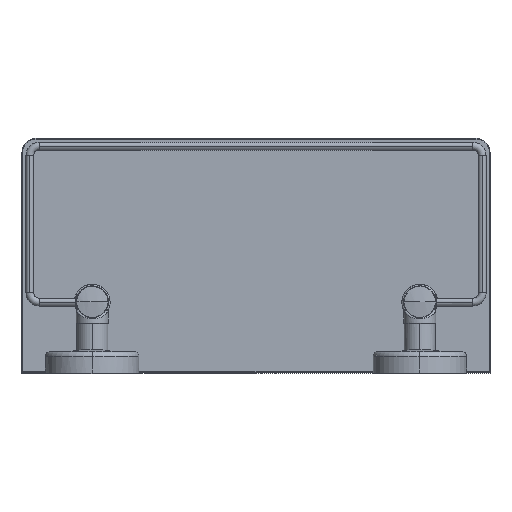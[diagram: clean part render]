
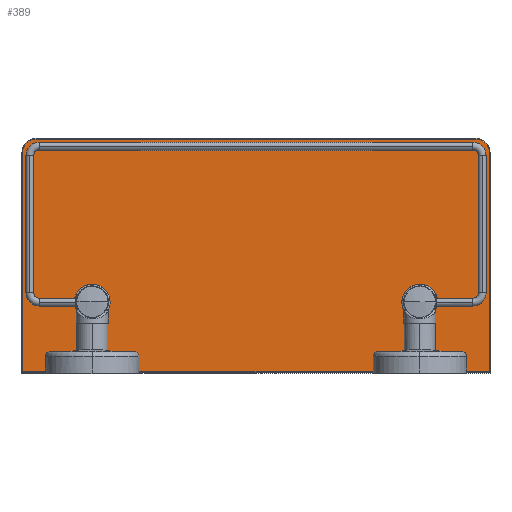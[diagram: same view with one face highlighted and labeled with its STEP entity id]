
A CAD part, top view. The second image highlights one B-rep face of the part: STEP entity #389.
In plain terms, the highlighted planar face has unit normal (0, 0, 1).
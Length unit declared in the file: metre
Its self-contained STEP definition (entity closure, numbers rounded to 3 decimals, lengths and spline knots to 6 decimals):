
#32=VERTEX_POINT('',#33);
#33=CARTESIAN_POINT('',(0.006,0.0329,-0.0631));
#39=EDGE_CURVE('',#40,#32,#42,.T.);
#40=VERTEX_POINT('',#41);
#41=CARTESIAN_POINT('',(-0.006,0.0329,-0.0631));
#42=CIRCLE('',#43,0.006);
#43=AXIS2_PLACEMENT_3D('',#44,#45,#46);
#44=CARTESIAN_POINT('',(-0.0,0.0329,-0.0631));
#45=DIRECTION('',(0.0,0.0,-1.0));
#46=DIRECTION('',(-1.0,0.0,0.0));
#74=VERTEX_POINT('',#75);
#75=CARTESIAN_POINT('',(-0.204,0.0329,-0.0631));
#81=EDGE_CURVE('',#82,#74,#84,.T.);
#82=VERTEX_POINT('',#83);
#83=CARTESIAN_POINT('',(-0.216,0.0329,-0.0631));
#84=CIRCLE('',#85,0.006);
#85=AXIS2_PLACEMENT_3D('',#86,#87,#88);
#86=CARTESIAN_POINT('',(-0.21,0.0329,-0.0631));
#87=DIRECTION('',(0.0,0.0,-1.0));
#88=DIRECTION('',(-1.0,0.0,0.0));
#276=CARTESIAN_POINT('',(-0.204,0.0329,-0.0631));
#277=EDGE_CURVE('',#74,#82,#278,.T.);
#278=(B_SPLINE_CURVE(3,(#276,#279,#280,#281),.UNSPECIFIED.,.F.,.U.)B_SPLINE_CURVE_WITH_KNOTS(
  (4,4),(0.0,1.0),.UNSPECIFIED.)BOUNDED_CURVE()CURVE()GEOMETRIC_REPRESENTATION_ITEM(
  )RATIONAL_B_SPLINE_CURVE((1.0,0.333,0.333,1.0)
  )REPRESENTATION_ITEM(''));
#279=CARTESIAN_POINT('',(-0.204,0.0209,-0.0631));
#280=CARTESIAN_POINT('',(-0.216,0.0209,-0.0631));
#281=CARTESIAN_POINT('',(-0.216,0.0329,-0.0631));
#295=CARTESIAN_POINT('',(0.006,0.0329,-0.0631));
#296=EDGE_CURVE('',#32,#40,#297,.T.);
#297=(B_SPLINE_CURVE(3,(#295,#298,#299,#300),.UNSPECIFIED.,.F.,.U.)B_SPLINE_CURVE_WITH_KNOTS(
  (4,4),(0.0,1.0),.UNSPECIFIED.)BOUNDED_CURVE()CURVE()GEOMETRIC_REPRESENTATION_ITEM(
  )RATIONAL_B_SPLINE_CURVE((1.0,0.333,0.333,1.0)
  )REPRESENTATION_ITEM(''));
#298=CARTESIAN_POINT('',(0.006,0.0209,-0.0631));
#299=CARTESIAN_POINT('',(-0.006,0.0209,-0.0631));
#300=CARTESIAN_POINT('',(-0.006,0.0329,-0.0631));
#389=ADVANCED_FACE('',(#395,#447,#451),#390,.F.);
#390=PLANE('',#391);
#391=AXIS2_PLACEMENT_3D('',#392,#393,#394);
#392=CARTESIAN_POINT('',(-0.105,-0.0121,-0.0631));
#393=DIRECTION('',(0.0,0.0,-1.0));
#394=DIRECTION('',(0.0,-1.0,0.0));
#395=FACE_OUTER_BOUND('',#396,.T.);
#396=EDGE_LOOP('',(#397,#407,#415,#423,#432,#440));
#397=ORIENTED_EDGE('',*,*,#398,.T.);
#398=EDGE_CURVE('',#399,#401,#403,.T.);
#399=VERTEX_POINT('',#400);
#400=CARTESIAN_POINT('',(-0.2545,0.1289,-0.0631));
#401=VERTEX_POINT('',#402);
#402=CARTESIAN_POINT('',(-0.2545,-0.0116,-0.0631));
#403=LINE('',#404,#405);
#404=CARTESIAN_POINT('',(-0.2545,-0.0121,-0.0631));
#405=VECTOR('',#406,1.0);
#406=DIRECTION('',(0.0,-1.0,0.0));
#407=ORIENTED_EDGE('',*,*,#408,.T.);
#408=EDGE_CURVE('',#401,#409,#411,.T.);
#409=VERTEX_POINT('',#410);
#410=CARTESIAN_POINT('',(0.0445,-0.0116,-0.0631));
#411=LINE('',#412,#413);
#412=CARTESIAN_POINT('',(-0.105,-0.0116,-0.0631));
#413=VECTOR('',#414,1.0);
#414=DIRECTION('',(1.0,0.0,0.0));
#415=ORIENTED_EDGE('',*,*,#416,.T.);
#416=EDGE_CURVE('',#409,#417,#419,.T.);
#417=VERTEX_POINT('',#418);
#418=CARTESIAN_POINT('',(0.0445,0.1289,-0.0631));
#419=LINE('',#420,#421);
#420=CARTESIAN_POINT('',(0.0445,-0.0121,-0.0631));
#421=VECTOR('',#422,1.0);
#422=DIRECTION('',(0.0,1.0,0.0));
#423=ORIENTED_EDGE('',*,*,#424,.T.);
#424=EDGE_CURVE('',#417,#425,#427,.F.);
#425=VERTEX_POINT('',#426);
#426=CARTESIAN_POINT('',(0.036,0.1374,-0.0631));
#427=CIRCLE('',#428,0.0085);
#428=AXIS2_PLACEMENT_3D('',#429,#430,#431);
#429=CARTESIAN_POINT('',(0.036,0.1289,-0.0631));
#430=DIRECTION('',(0.0,0.0,-1.0));
#431=DIRECTION('',(-1.0,0.0,0.0));
#432=ORIENTED_EDGE('',*,*,#433,.T.);
#433=EDGE_CURVE('',#425,#434,#436,.T.);
#434=VERTEX_POINT('',#435);
#435=CARTESIAN_POINT('',(-0.246,0.1374,-0.0631));
#436=LINE('',#437,#438);
#437=CARTESIAN_POINT('',(-0.105,0.1374,-0.0631));
#438=VECTOR('',#439,1.0);
#439=DIRECTION('',(-1.0,0.0,0.0));
#440=ORIENTED_EDGE('',*,*,#441,.T.);
#441=EDGE_CURVE('',#434,#399,#442,.F.);
#442=CIRCLE('',#443,0.0085);
#443=AXIS2_PLACEMENT_3D('',#444,#445,#446);
#444=CARTESIAN_POINT('',(-0.246,0.1289,-0.0631));
#445=DIRECTION('',(0.0,0.0,-1.0));
#446=DIRECTION('',(-1.0,0.0,0.0));
#447=FACE_BOUND('',#448,.T.);
#448=EDGE_LOOP('',(#449,#450));
#449=ORIENTED_EDGE('',*,*,#39,.T.);
#450=ORIENTED_EDGE('',*,*,#296,.T.);
#451=FACE_BOUND('',#452,.T.);
#452=EDGE_LOOP('',(#453,#454));
#453=ORIENTED_EDGE('',*,*,#81,.T.);
#454=ORIENTED_EDGE('',*,*,#277,.T.);
